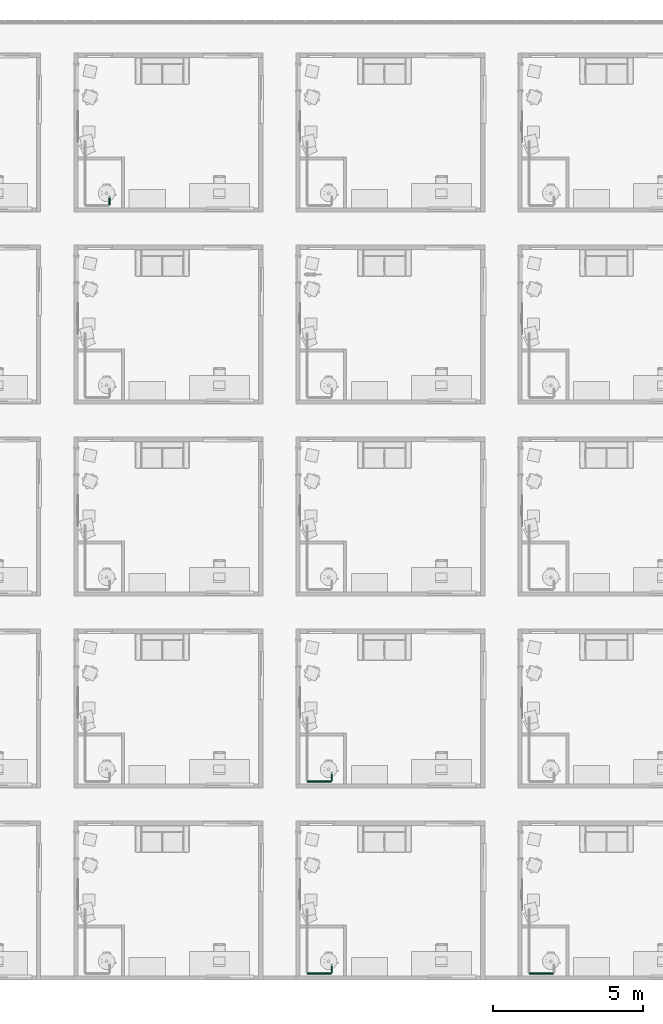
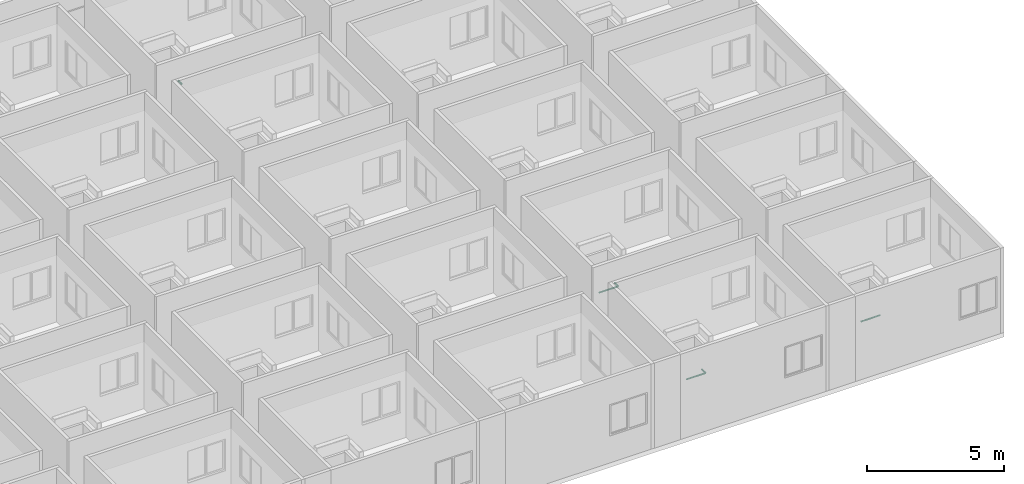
# One storey, part 49 of 71: 6 pipe segments.
"""IFC4 building model written with IfcOpenShell, lengths in centimetres."""

from ifc_helpers import new_model, entity, si_unit, converted_unit, derived_unit, direction, frame, origin, place, context, subcontext, project, spatial, arc, indexed_curve, outline, extrude, type_object, element, save


model = new_model("IFC4")

# Units and contexts
model_context = context("Model", 3, precision=0.001, world=origin(), true_north=direction((6.123233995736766e-17, 1.0)))
body_context = subcontext(model_context, "Body", "Model", "MODEL_VIEW")
ifc_project = project(units=[si_unit("LENGTHUNIT", "METRE", prefix="CENTI"), si_unit("AREAUNIT", "SQUARE_METRE"), si_unit("VOLUMEUNIT", "CUBIC_METRE"), derived_unit("THERMALTRANSMITTANCEUNIT", [(si_unit("MASSUNIT", "GRAM", prefix="KILO"), 1), (si_unit("THERMODYNAMICTEMPERATUREUNIT", "KELVIN"), -1), (si_unit("TIMEUNIT", "SECOND"), -3)]), converted_unit("PLANEANGLEUNIT", "DEGREE", entity("IfcPlaneAngleMeasure", 0.017453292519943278), si_unit("PLANEANGLEUNIT", "RADIAN"), dimensions=[0, 0, 0, 0, 0, 0, 0]), derived_unit("MASSDENSITYUNIT", [(si_unit("MASSUNIT", "GRAM", prefix="KILO"), 1), (si_unit("LENGTHUNIT", "METRE"), -3)]), derived_unit("VAPORPERMEABILITYUNIT", [(si_unit("LENGTHUNIT", "METRE"), -1), (si_unit("TIMEUNIT", "SECOND"), 1)]), derived_unit("USERDEFINED", [(si_unit("MASSUNIT", "GRAM", prefix="KILO"), 1), (si_unit("TIMEUNIT", "SECOND"), -3), (si_unit("LENGTHUNIT", "METRE"), 3), (si_unit("ELECTRICCURRENTUNIT", "AMPERE"), -2)]), derived_unit("SPECIFICHEATCAPACITYUNIT", [(si_unit("THERMODYNAMICTEMPERATUREUNIT", "KELVIN"), -1), (si_unit("LENGTHUNIT", "METRE"), 2), (si_unit("TIMEUNIT", "SECOND"), -2)]), derived_unit("THERMALCONDUCTANCEUNIT", [(si_unit("MASSUNIT", "GRAM", prefix="KILO"), 1), (si_unit("THERMODYNAMICTEMPERATUREUNIT", "KELVIN"), -1), (si_unit("TIMEUNIT", "SECOND"), -3), (si_unit("LENGTHUNIT", "METRE"), 1)]), si_unit("PRESSUREUNIT", "PASCAL"), derived_unit("MODULUSOFELASTICITYUNIT", [(si_unit("MASSUNIT", "GRAM", prefix="KILO"), 1), (si_unit("LENGTHUNIT", "METRE"), -1), (si_unit("TIMEUNIT", "SECOND"), -2)]), derived_unit("THERMALEXPANSIONCOEFFICIENTUNIT", [(si_unit("THERMODYNAMICTEMPERATUREUNIT", "KELVIN"), -1)])], contexts=[model_context])

# Site, building, storey
site_placement = place(None, origin())
site = spatial("IfcSite", under=ifc_project, at=site_placement, Name="Default", CompositionType="ELEMENT")
building_placement = place(site_placement, origin())
building = spatial("IfcBuilding", under=site, at=building_placement, Name="IDS Escape Game Building", CompositionType="ELEMENT")
storey_placement = place(building_placement, frame((0.0, 0.0, 1200.0)))
storey = spatial("IfcBuildingStorey", under=building, at=storey_placement, Name="03_Third Floor", CompositionType="ELEMENT", Elevation=1200.0)

# Pipe segments
pipe_segment_type = type_object("IfcPipeSegmentType", Name="Pipe Types:Piping Aluminum", PredefinedType="NOTDEFINED")
pipe_segment_1_placement = place(storey_placement, origin())
element("IfcPipeSegment", 1, at=pipe_segment_1_placement, inside=storey, type_object=pipe_segment_type, Name="Pipe Types:Piping Aluminum", ObjectType="Pipe Types:Piping Aluminum", PredefinedType="NOTDEFINED", context=body_context, shape_type="SweptSolid", body=[
    extrude(outline(indexed_curve([(2.412999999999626, -2.165734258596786e-13), (1.7062486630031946, 1.7062486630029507), (3.790034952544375e-13, 2.4130000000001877), (-1.7062486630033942, 1.706248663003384), (-2.4130000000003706, -2.165734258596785e-13), (-1.70624866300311, -1.706248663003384), (3.654676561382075e-13, -2.4129999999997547), (1.7062486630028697, -1.7062486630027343)], segments=[arc(1, 2, 3), arc(3, 4, 5), arc(5, 6, 7), arc(7, 8, 1)], self_intersect=False)), frame((3721.1467168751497, 21.264827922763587, 242.0), z_axis=(1.0, 0.0, 0.0), x_axis=(0.0, 1.0, 0.0)), (0.0, 0.0, 1.0), 79.90328312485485),
])
pipe_segment_2_placement = place(storey_placement, origin())
element("IfcPipeSegment", 2, at=pipe_segment_2_placement, inside=storey, type_object=pipe_segment_type, Name="Pipe Types:Piping Aluminum", ObjectType="Pipe Types:Piping Aluminum", PredefinedType="NOTDEFINED", context=body_context, shape_type="SweptSolid", body=[
    extrude(outline(indexed_curve([(2.4129999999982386, 0.0), (1.706248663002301, 1.7062486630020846), (1.2994405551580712e-12, 2.412999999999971), (-1.7062486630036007, 1.7062486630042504), (-2.413000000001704, 0.0), (-1.7062486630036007, -1.7062486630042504), (1.2994405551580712e-12, -2.412999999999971), (1.706248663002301, -1.7062486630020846)], segments=[arc(1, 2, 3), arc(3, 4, 5), arc(5, 6, 7), arc(7, 8, 1)], self_intersect=False)), frame((3802.150000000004, 22.364827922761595, 242.0), z_axis=(0.0, 1.0, 0.0), x_axis=(-1.0, 0.0, 0.0)), (0.0, 0.0, 1.0), 25.435172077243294),
])
pipe_segment_3_placement = place(storey_placement, origin())
element("IfcPipeSegment", 3, at=pipe_segment_3_placement, inside=storey, type_object=pipe_segment_type, Name="Pipe Types:Piping Aluminum", ObjectType="Pipe Types:Piping Aluminum", PredefinedType="NOTDEFINED", context=body_context, shape_type="SweptSolid", body=[
    extrude(outline(indexed_curve([(2.412999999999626, -2.165734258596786e-13), (1.7062486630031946, 1.7062486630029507), (3.790034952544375e-13, 2.4130000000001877), (-1.7062486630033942, 1.706248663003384), (-2.4130000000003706, -2.165734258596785e-13), (-1.70624866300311, -1.706248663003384), (3.654676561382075e-13, -2.4129999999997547), (1.7062486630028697, -1.7062486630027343)], segments=[arc(1, 2, 3), arc(3, 4, 5), arc(5, 6, 7), arc(7, 8, 1)], self_intersect=False)), frame((4459.146716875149, 21.264827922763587, 242.0), z_axis=(1.0, 0.0, 0.0), x_axis=(0.0, 1.0, 0.0)), (0.0, 0.0, 1.0), 79.90328312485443),
])
pipe_segment_4_placement = place(storey_placement, origin())
element("IfcPipeSegment", 4, at=pipe_segment_4_placement, inside=storey, type_object=pipe_segment_type, Name="Pipe Types:Piping Aluminum", ObjectType="Pipe Types:Piping Aluminum", PredefinedType="NOTDEFINED", context=body_context, shape_type="SweptSolid", body=[
    extrude(outline(indexed_curve([(2.4129999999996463, -2.165734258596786e-13), (1.7062486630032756, 1.7062486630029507), (4.331468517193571e-13, 2.4130000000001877), (-1.706248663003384, 1.706248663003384), (-2.413000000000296, -2.165734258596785e-13), (-1.706248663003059, -1.706248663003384), (4.3314685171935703e-13, -2.4129999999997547), (1.7062486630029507, -1.7062486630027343)], segments=[arc(1, 2, 3), arc(3, 4, 5), arc(5, 6, 7), arc(7, 8, 1)], self_intersect=False)), frame((3721.1467168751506, 659.2648279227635, 242.0), z_axis=(1.0, 0.0, 0.0), x_axis=(0.0, 1.0, 0.0)), (0.0, 0.0, 1.0), 79.90328312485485),
])
pipe_segment_5_placement = place(storey_placement, origin())
element("IfcPipeSegment", 5, at=pipe_segment_5_placement, inside=storey, type_object=pipe_segment_type, Name="Pipe Types:Piping Aluminum", ObjectType="Pipe Types:Piping Aluminum", PredefinedType="NOTDEFINED", context=body_context, shape_type="SweptSolid", body=[
    extrude(outline(indexed_curve([(2.4129999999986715, 0.0), (1.7062486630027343, 1.7062486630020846), (1.7325874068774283e-12, 2.412999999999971), (-1.7062486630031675, 1.7062486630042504), (-2.413000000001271, 0.0), (-1.7062486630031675, -1.7062486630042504), (1.7325874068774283e-12, -2.412999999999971), (1.7062486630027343, -1.7062486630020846)], segments=[arc(1, 2, 3), arc(3, 4, 5), arc(5, 6, 7), arc(7, 8, 1)], self_intersect=False)), frame((3802.150000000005, 660.3648279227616, 242.0), z_axis=(0.0, 1.0, 0.0), x_axis=(-1.0, 0.0, 0.0)), (0.0, 0.0, 1.0), 25.43517207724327),
])
pipe_segment_6_placement = place(storey_placement, origin())
element("IfcPipeSegment", 6, at=pipe_segment_6_placement, inside=storey, type_object=pipe_segment_type, Name="Pipe Types:Piping Aluminum", ObjectType="Pipe Types:Piping Aluminum", PredefinedType="NOTDEFINED", context=body_context, shape_type="SweptSolid", body=[
    extrude(outline(indexed_curve([(2.4129999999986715, 0.0), (1.7062486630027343, 1.7062486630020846), (1.7325874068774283e-12, 2.412999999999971), (-1.7062486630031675, 1.7062486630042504), (-2.413000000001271, 0.0), (-1.7062486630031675, -1.7062486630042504), (1.7325874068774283e-12, -2.412999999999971), (1.7062486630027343, -1.7062486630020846)], segments=[arc(1, 2, 3), arc(3, 4, 5), arc(5, 6, 7), arc(7, 8, 1)], self_intersect=False)), frame((3064.1500000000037, 2574.3648279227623, 242.0), z_axis=(0.0, 1.0, 0.0), x_axis=(-1.0, 0.0, 0.0)), (0.0, 0.0, 1.0), 25.43517207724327),
])

save(model, "model.ifc")
